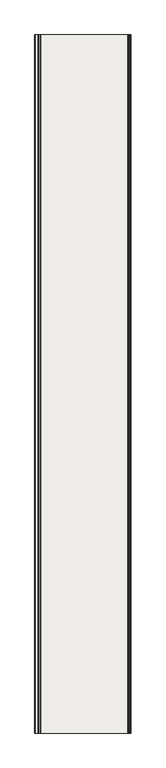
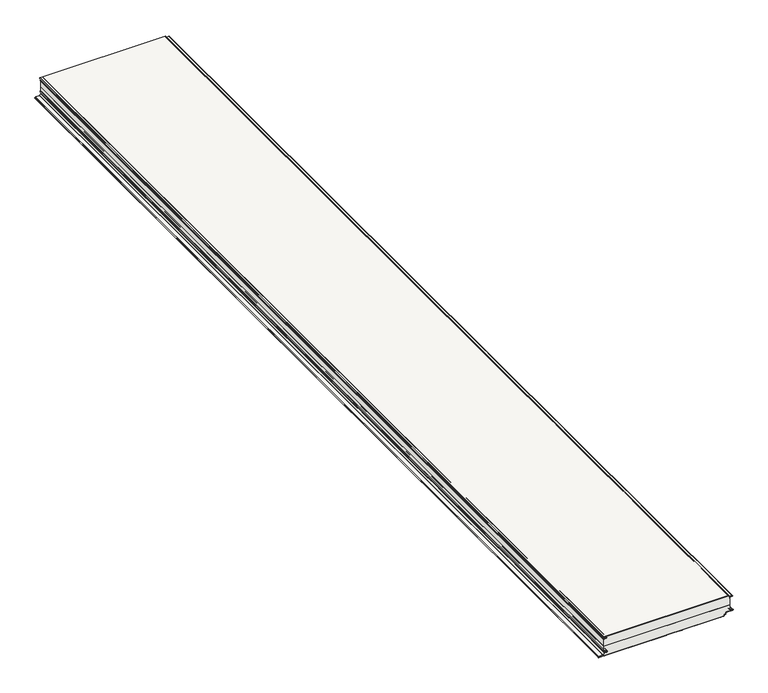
"""IFC4 building model written with IfcOpenShell, lengths in millimetres: covering geometry, Wall sandwich panel SPW-H CORE PIR (single sheet) : -."""

from ifc_helpers import new_model, si_unit, point, frame, frame_2d, origin, place, context, project, spatial, polyline, circle_curve, trimmed, segment, composite_curve, outline, extrude, source, transform, mapped, element, save
from ifc_brep_helpers import plane_surface, cylinder_surface, revolved_surface, advanced_brep


def covering_c520f398(model_context):
    return source(origin(), model_context, "Body", "SolidModel", [
        extrude(outline(composite_curve([segment(polyline([(-15.1088808, -783.0523342), (-14.5423642, -772.2421915)]), True, "CONTINUOUS"), segment(trimmed(circle_curve(frame_2d((-9.549216, -772.5038626)), 5.0), [point((-14.5423642, -772.2421915))], [point((-4.5522622, -772.3293564))], False, "CARTESIAN"), True, "CONTINUOUS"), segment(polyline([(-4.5522622, -772.3293564), (-4.0495702, -786.7238513)]), True, "CONTINUOUS"), segment(trimmed(circle_curve(frame_2d((-2.5266447, -786.6173526)), 1.5266447), [point((-4.0495702, -786.7238513))], [point((-1.0, -786.6173526))], True, "CARTESIAN"), True, "CONTINUOUS"), segment(polyline([(-1.0, -786.6173526), (-1.0, -785.0), (0.0, -785.0), (0.0, -786.6173526)]), True, "CONTINUOUS"), segment(trimmed(circle_curve(frame_2d((-2.5266447, -786.6173526)), 2.5266447), [point((0.0, -786.6173526))], [point((-5.0484281, -786.7740115))], False, "CARTESIAN"), True, "CONTINUOUS"), segment(polyline([(-5.0484281, -786.7740115), (-5.551653, -772.3642576)]), True, "CONTINUOUS"), segment(trimmed(circle_curve(frame_2d((-9.549216, -772.5038626)), 4.0), [point((-5.551653, -772.3642576))], [point((-13.5437346, -772.2945257))], True, "CARTESIAN"), True, "CONTINUOUS"), segment(polyline([(-13.5437346, -772.2945257), (-14.1102512, -783.1046684)]), True, "CONTINUOUS"), segment(trimmed(circle_curve(frame_2d((-16.1075105, -783.0)), 2.0), [point((-14.1102512, -783.1046684))], [point((-16.1075105, -785.0))], False, "CARTESIAN"), True, "CONTINUOUS"), segment(polyline([(-16.1075105, -785.0), (-18.1075105, -785.0), (-18.1075105, -784.0), (-16.1075105, -784.0)]), True, "CONTINUOUS"), segment(trimmed(circle_curve(frame_2d((-16.1075105, -783.0)), 1.0), [point((-16.1075105, -784.0))], [point((-15.1088808, -783.0523342))], True, "CARTESIAN"), True, "CONTINUOUS")], self_intersect=False)), frame((0.0, -5800.0, 0.0), z_axis=(0.0, 1.0, 0.0), x_axis=(0.0, 0.0, 1.0)), (0.0, 0.0, 1.0), 5800.0),
        advanced_brep(
        [(-780.5824878, -5800.0, -102.0150874), (-769.3324878, -5800.0, -101.9992045), (-769.0709825, -5800.0, -92.0060522), (-783.2742211, -5800.0, -91.2619406), (-784.0, -5800.0, -90.4971426), (-784.0, -5800.0, -81.4971426), (-785.0, -5800.0, -81.4971426), (-785.0, -5800.0, -90.4971426), (-783.3265396, -5800.0, -92.260571), (-769.123301, -5800.0, -93.0046827), (-769.3331636, -5800.0, -100.9992044), (-780.6396582, -5800.0, -101.0151671), (-782.7899391, -5800.0, -102.27871), (-788.1496634, -5800.0, -109.933474), (-790.1975249, -5800.0, -110.9995686), (-813.4143745, -5800.0, -110.9999738), (-813.414296, -5800.0, -120.0), (-785.0, -5800.0, -120.0), (-785.0, -5800.0, -119.0), (-813.414296, -5800.0, -119.0), (-813.4143571, -5800.0, -112.0), (-790.1975075, -5800.0, -111.9995686), (-787.3305014, -5800.0, -110.5070361), (-781.9707771, -5800.0, -102.8522722), (-780.5824878, 0.0, -102.0150874), (-781.9707771, 0.0, -102.8522722), (-787.3305014, 0.0, -110.5070361), (-790.1975075, 0.0, -111.9995686), (-813.4143571, 0.0, -111.9999738), (-813.414296, 0.0, -119.0), (-785.0, 0.0, -119.0), (-785.0, 0.0, -120.0), (-813.414296, 0.0, -120.0), (-813.4143745, 0.0, -111.0), (-790.1975249, 0.0, -110.9995686), (-788.1496634, 0.0, -109.933474), (-782.7899391, 0.0, -102.27871), (-780.6396582, 0.0, -101.0151671), (-769.3331636, 0.0, -100.9992044), (-769.123301, 0.0, -93.0046827), (-783.3265396, 0.0, -92.260571), (-785.0, 0.0, -90.4971426), (-785.0, 0.0, -81.4971426), (-784.0, 0.0, -81.4971426), (-784.0, 0.0, -90.4971426), (-783.2742211, 0.0, -91.2619406), (-769.0709825, 0.0, -92.0060522), (-769.3324878, 0.0, -101.9992045)],
        [
            (0, 1),
            (1, 2, circle_curve(frame((-769.3325751, -5800.0, -96.9992045), z_axis=(0.0, -1.0, 0.0), x_axis=(1.0, 0.0, 0.0)), 5.0)),
            (2, 3),
            (3, 4, circle_curve(frame((-783.2341531, -5800.0, -90.4971426), z_axis=(0.0, 1.0, 0.0), x_axis=(1.0, 0.0, 0.0)), 0.7658469)),
            (4, 5),
            (5, 6),
            (6, 7),
            (7, 8, circle_curve(frame((-783.2341531, -5800.0, -90.4971426), z_axis=(0.0, -1.0, 0.0), x_axis=(1.0, 0.0, 0.0)), 1.7658469)),
            (8, 9),
            (9, 10, circle_curve(frame((-769.3325751, -5800.0, -96.9992045), z_axis=(0.0, 1.0, 0.0), x_axis=(1.0, 0.0, 0.0)), 4.0)),
            (10, 11),
            (11, 12, circle_curve(frame((-780.3324529, -5800.0, -103.9993964), z_axis=(0.0, -1.0, 0.0), x_axis=(1.0, 0.0, 0.0)), 3.0)),
            (12, 13),
            (13, 14, circle_curve(frame((-790.1975686, -5800.0, -108.4995686), z_axis=(0.0, 1.0, 0.0), x_axis=(1.0, 0.0, 0.0)), 2.5)),
            (14, 15),
            (15, 16, circle_curve(frame((-813.414296, -5800.0, -115.5), z_axis=(0.0, -1.0, 0.0), x_axis=(1.0, 0.0, 0.0)), 4.5)),
            (16, 17),
            (17, 18),
            (18, 19),
            (19, 20, circle_curve(frame((-813.414296, -5800.0, -115.5), z_axis=(0.0, 1.0, 0.0), x_axis=(1.0, 0.0, 0.0)), 3.5)),
            (20, 21),
            (21, 22, circle_curve(frame((-790.1975686, -5800.0, -108.4995686), z_axis=(0.0, -1.0, 0.0), x_axis=(1.0, 0.0, 0.0)), 3.5)),
            (22, 23),
            (23, 0, circle_curve(frame((-780.3324529, -5800.0, -103.9993964), z_axis=(0.0, 1.0, 0.0), x_axis=(1.0, 0.0, 0.0)), 2.0)),
            (24, 25, circle_curve(frame((-780.3324529, 0.0, -103.9993964), z_axis=(0.0, -1.0, 0.0), x_axis=(1.0, 0.0, 0.0)), 2.0)),
            (25, 26),
            (26, 27, circle_curve(frame((-790.1975686, 0.0, -108.4995686), z_axis=(0.0, 1.0, 0.0), x_axis=(1.0, 0.0, 0.0)), 3.5)),
            (27, 28),
            (28, 29, circle_curve(frame((-813.414296, 0.0, -115.5), z_axis=(0.0, -1.0, 0.0), x_axis=(1.0, 0.0, 0.0)), 3.5)),
            (29, 30),
            (30, 31),
            (31, 32),
            (32, 33, circle_curve(frame((-813.414296, 0.0, -115.5), z_axis=(0.0, 1.0, 0.0), x_axis=(1.0, 0.0, 0.0)), 4.5)),
            (33, 34),
            (34, 35, circle_curve(frame((-790.1975686, 0.0, -108.4995686), z_axis=(0.0, -1.0, 0.0), x_axis=(1.0, 0.0, 0.0)), 2.5)),
            (35, 36),
            (36, 37, circle_curve(frame((-780.3324529, 0.0, -103.9993964), z_axis=(0.0, 1.0, 0.0), x_axis=(1.0, 0.0, 0.0)), 3.0)),
            (37, 38),
            (38, 39, circle_curve(frame((-769.3325751, 0.0, -96.9992045), z_axis=(0.0, -1.0, 0.0), x_axis=(1.0, 0.0, 0.0)), 4.0)),
            (39, 40),
            (40, 41, circle_curve(frame((-783.2341531, 0.0, -90.4971426), z_axis=(0.0, 1.0, 0.0), x_axis=(1.0, 0.0, 0.0)), 1.7658469)),
            (41, 42),
            (42, 43),
            (43, 44),
            (44, 45, circle_curve(frame((-783.2341531, 0.0, -90.4971426), z_axis=(0.0, -1.0, 0.0), x_axis=(1.0, 0.0, 0.0)), 0.7658469)),
            (45, 46),
            (46, 47, circle_curve(frame((-769.3325751, 0.0, -96.9992045), z_axis=(0.0, 1.0, 0.0), x_axis=(1.0, 0.0, 0.0)), 5.0)),
            (47, 24),
            (0, 24),
            (47, 1),
            (46, 2),
            (45, 3),
            (44, 4),
            (43, 5),
            (42, 6),
            (16, 32),
            (31, 17),
            (30, 18),
            (29, 19),
            (41, 7),
            (40, 8),
            (39, 9),
            (38, 10),
            (37, 11),
            (36, 12),
            (35, 13),
            (34, 14),
            (33, 15),
            (20, 28),
            (27, 21),
            (26, 22),
            (25, 23),
        ],
        [
            plane_surface(frame((-785.0, -5800.0, -120.0), z_axis=(0.0, -1.0, 0.0), x_axis=(0.0, 0.0, -1.0))),
            plane_surface(frame((-785.0, 0.0, -120.0), z_axis=(0.0, 1.0, 0.0), x_axis=(0.0, 0.0, -1.0))),
            plane_surface(frame((-780.5824878, -5800.0, -102.0150874), z_axis=(0.001411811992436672, 0.0, -0.9999990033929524), x_axis=(0.0, 1.0, 0.0))),
            cylinder_surface(frame((-769.3325751, -5800.0, -96.9992045), z_axis=(0.0, -1.0, 0.0), x_axis=(1.0, 0.0, 0.0)), 5.0),
            plane_surface(frame((-769.0709825, -5800.0, -92.0060522), z_axis=(0.05231852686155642, 0.0, 0.998630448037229), x_axis=(0.0, 1.0, 0.0))),
            revolved_surface(polyline([(-782.4683061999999, 0.0, -90.4971426), (-782.4683061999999, -5800.0, -90.4971426)]), (-783.2341531, -5800.0, -90.4971426), (0.0, 1.0, 0.0)),
            plane_surface(frame((-784.0, -5800.0, -90.4971426), z_axis=(1.0, 0.0, 0.0), x_axis=(0.0, 1.0, 0.0))),
            plane_surface(frame((-784.0, -5800.0, -81.4971426), z_axis=(0.0, 0.0, 1.0), x_axis=(0.0, 1.0, 0.0))),
            plane_surface(frame((-813.414296, -5800.0, -120.0), z_axis=(0.0, 0.0, -1.0), x_axis=(0.0, 1.0, 0.0))),
            plane_surface(frame((-785.0, -5800.0, -120.0), z_axis=(1.0, 0.0, 0.0), x_axis=(0.0, 1.0, 0.0))),
            plane_surface(frame((-785.0, -5800.0, -119.0), z_axis=(0.0, 0.0, 1.0), x_axis=(0.0, 1.0, 0.0))),
            plane_surface(frame((-785.0, -5800.0, -81.4971426), z_axis=(-1.0, 0.0, 0.0), x_axis=(0.0, 1.0, 0.0))),
            cylinder_surface(frame((-783.2341531, -5800.0, -90.4971426), z_axis=(0.0, -1.0, 0.0), x_axis=(1.0, 0.0, 0.0)), 1.7658469),
            plane_surface(frame((-783.3265396, -5800.0, -92.260571), z_axis=(-0.05231852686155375, 0.0, -0.9986304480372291), x_axis=(0.0, 1.0, 0.0))),
            revolved_surface(polyline([(-765.3325751, 0.0, -96.9992045), (-765.3325751, -5800.0, -96.9992045)]), (-769.3325751, -5800.0, -96.9992045), (0.0, 1.0, 0.0)),
            plane_surface(frame((-769.3331636, -5800.0, -100.9992044), z_axis=(-0.0014118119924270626, 0.0, 0.9999990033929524), x_axis=(0.0, 1.0, 0.0))),
            cylinder_surface(frame((-780.3324529, -5800.0, -103.9993964), z_axis=(0.0, -1.0, 0.0), x_axis=(1.0, 0.0, 0.0)), 3.0),
            plane_surface(frame((-782.7899391, -5800.0, -102.27871), z_axis=(-0.8191620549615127, 0.0, 0.573562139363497), x_axis=(0.0, 1.0, 0.0))),
            revolved_surface(polyline([(-787.6975686, 0.0, -108.4995686), (-787.6975686, -5800.0, -108.4995686)]), (-790.1975686, -5800.0, -108.4995686), (0.0, 1.0, 0.0)),
            plane_surface(frame((-790.1975249, -5800.0, -110.9995686), z_axis=(-1.745329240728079e-05, 0.0, 0.9999999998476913), x_axis=(0.0, 1.0, 0.0))),
            plane_surface(frame((-813.4143571, -5800.0, -111.9999738), z_axis=(1.7453292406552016e-05, 0.0, -0.9999999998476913), x_axis=(0.0, 1.0, 0.0))),
            cylinder_surface(frame((-790.1975686, -5800.0, -108.4995686), z_axis=(0.0, -1.0, 0.0), x_axis=(1.0, 0.0, 0.0)), 3.5),
            plane_surface(frame((-787.3305014, -5800.0, -110.5070361), z_axis=(0.8191620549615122, 0.0, -0.5735621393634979), x_axis=(0.0, 1.0, 0.0))),
            revolved_surface(polyline([(-778.3324529, 0.0, -103.9993964), (-778.3324529, -5800.0, -103.9993964)]), (-780.3324529, -5800.0, -103.9993964), (0.0, 1.0, 0.0)),
            cylinder_surface(frame((-813.414296, -5800.0, -115.5), z_axis=(0.0, -1.0, 0.0), x_axis=(1.0, 0.0, 0.0)), 4.5),
            revolved_surface(polyline([(-809.914296, 0.0, -115.5), (-809.914296, -5800.0, -115.5)]), (-813.414296, -5800.0, -115.5), (0.0, 1.0, 0.0)),
        ],
        [
            (0, [[1, 2, 3, 4, 5, 6, 7, 8, 9, 10, 11, 12, 13, 14, 15, 16, 17, 18, 19, 20, 21, 22, 23, 24]]),
            (1, [[25, 26, 27, 28, 29, 30, 31, 32, 33, 34, 35, 36, 37, 38, 39, 40, 41, 42, 43, 44, 45, 46, 47, 48]]),
            (2, [[-1, 49, -48, 50]]),
            (3, [[-2, -50, -47, 51]]),
            (4, [[-3, -51, -46, 52]]),
            (5, [[-4, -52, -45, 53]]),
            (6, [[-5, -53, -44, 54]]),
            (7, [[-6, -54, -43, 55]]),
            (8, [[-17, 56, -32, 57]]),
            (9, [[-18, -57, -31, 58]]),
            (10, [[-19, -58, -30, 59]]),
            (11, [[-7, -55, -42, 60]]),
            (12, [[-8, -60, -41, 61]]),
            (13, [[-9, -61, -40, 62]]),
            (14, [[-10, -62, -39, 63]]),
            (15, [[-11, -63, -38, 64]]),
            (16, [[-12, -64, -37, 65]]),
            (17, [[-13, -65, -36, 66]]),
            (18, [[-14, -66, -35, 67]]),
            (19, [[-15, -67, -34, 68]]),
            (20, [[-21, 69, -28, 70]]),
            (21, [[-22, -70, -27, 71]]),
            (22, [[-23, -71, -26, 72]]),
            (23, [[-24, -72, -25, -49]]),
            (24, [[-16, -68, -33, -56]]),
            (25, [[-20, -59, -29, -69]]),
        ],
    ),
        extrude(outline(composite_curve([segment(polyline([(-120.0, -775.4098003), (-119.6, -774.0275239), (-119.6, -729.8098003), (-120.0, -728.4275239), (-120.0, -684.2098003), (-119.6, -682.8275239), (-119.6, -638.6098003), (-120.0, -637.2275239), (-120.0, -593.0098003), (-119.6, -591.6275239), (-119.6, -547.4098003), (-120.0, -546.0275239), (-120.0, -501.8098003), (-119.6, -500.4275239), (-119.6, -456.2098003), (-120.0, -454.8275239), (-120.0, -410.6098003), (-119.6, -409.2275239), (-119.6, -365.0098003), (-120.0, -363.6275239), (-120.0, -319.4098003), (-119.6, -318.0275239), (-119.6, -273.8098003), (-120.0, -272.4275239), (-120.0, -228.2098003), (-119.6, -226.8275239), (-119.6, -182.6098003), (-120.0, -181.2275239), (-120.0, -137.0098003), (-119.6, -135.6275239), (-119.6, -91.4098003), (-120.0, -90.0275239), (-120.0, -73.4477183)]), True, "CONTINUOUS"), segment(trimmed(circle_curve(frame_2d((-115.0, -73.4477183)), 5.0), [point((-120.0, -73.4477183))], [point((-115.0, -68.4477183))], False, "CARTESIAN"), True, "CONTINUOUS"), segment(polyline([(-115.0, -68.4477183), (-112.008232, -68.4477183)]), True, "CONTINUOUS"), segment(trimmed(circle_curve(frame_2d((-112.008232, -66.4315256)), 2.0161927), [point((-112.008232, -68.4477183))], [point((-109.9920393, -66.4315256))], True, "CARTESIAN"), True, "CONTINUOUS"), segment(polyline([(-109.9920393, -66.4315256), (-109.9920393, -60.9141788)]), True, "CONTINUOUS"), segment(trimmed(circle_curve(frame_2d((-107.4959919, -60.9141788)), 2.4960474), [point((-109.9920393, -60.9141788))], [point((-107.9326372, -58.4566204))], False, "CARTESIAN"), True, "CONTINUOUS"), segment(polyline([(-107.9326372, -58.4566204), (-101.6533464, -57.3460478)]), True, "CONTINUOUS"), segment(trimmed(circle_curve(frame_2d((-102.0004127, -55.3763918)), 2.0), [point((-101.6533464, -57.3460478))], [point((-100.0004127, -55.3763918))], True, "CARTESIAN"), True, "CONTINUOUS"), segment(polyline([(-100.0004127, -55.3763918), (-100.0004127, -18.8763918)]), True, "CONTINUOUS"), segment(trimmed(circle_curve(frame_2d((-97.0004127, -18.8763918)), 3.0), [point((-100.0004127, -18.8763918))], [point((-94.0045241, -18.7193839))], False, "CARTESIAN"), True, "CONTINUOUS"), segment(polyline([(-94.0045241, -18.7193839), (-93.2754556, -32.6308399)]), True, "CONTINUOUS"), segment(trimmed(circle_curve(frame_2d((-90.7788817, -32.5)), 2.5), [point((-93.2754556, -32.6308399))], [point((-90.7788817, -35.0))], True, "CARTESIAN"), True, "CONTINUOUS"), segment(polyline([(-90.7788817, -35.0), (-81.4988817, -35.0), (-81.4988817, -36.0), (-90.7788817, -36.0)]), True, "CONTINUOUS"), segment(trimmed(circle_curve(frame_2d((-90.7788817, -32.5)), 3.5), [point((-90.7788817, -36.0))], [point((-94.2740851, -32.6831758))], False, "CARTESIAN"), True, "CONTINUOUS"), segment(polyline([(-94.2740851, -32.6831758), (-95.0031536, -18.7717199)]), True, "CONTINUOUS"), segment(trimmed(circle_curve(frame_2d((-97.0004127, -18.8763918)), 2.0), [point((-95.0031536, -18.7717199))], [point((-99.0004127, -18.8763918))], True, "CARTESIAN"), True, "CONTINUOUS"), segment(polyline([(-99.0004127, -18.8763918), (-99.0004127, -55.3763918)]), True, "CONTINUOUS"), segment(trimmed(circle_curve(frame_2d((-102.0004127, -55.3763918)), 3.0), [point((-99.0004127, -55.3763918))], [point((-101.4794682, -58.330815))], False, "CARTESIAN"), True, "CONTINUOUS"), segment(polyline([(-101.4794682, -58.330815), (-107.7580406, -59.4412605)]), True, "CONTINUOUS"), segment(trimmed(circle_curve(frame_2d((-107.4959919, -60.9141788)), 1.4960474), [point((-107.7580406, -59.4412605))], [point((-108.9920393, -60.9141788))], True, "CARTESIAN"), True, "CONTINUOUS"), segment(polyline([(-108.9920393, -60.9141788), (-108.9920393, -66.4315256)]), True, "CONTINUOUS"), segment(trimmed(circle_curve(frame_2d((-112.008232, -66.4315256)), 3.0161927), [point((-108.9920393, -66.4315256))], [point((-112.008232, -69.4477183))], False, "CARTESIAN"), True, "CONTINUOUS"), segment(polyline([(-112.008232, -69.4477183), (-115.0, -69.4477183)]), True, "CONTINUOUS"), segment(trimmed(circle_curve(frame_2d((-115.0, -73.4477183)), 4.0), [point((-115.0, -69.4477183))], [point((-119.0, -73.4477183))], True, "CARTESIAN"), True, "CONTINUOUS"), segment(polyline([(-119.0, -73.4477183), (-119.0, -785.0), (-120.0, -785.0), (-120.0, -775.4098003)]), True, "CONTINUOUS")], self_intersect=False)), frame((0.0, -5800.0, 0.0), z_axis=(0.0, 1.0, 0.0), x_axis=(0.0, 0.0, 1.0)), (0.0, 0.0, 1.0), 5800.0),
        extrude(outline(composite_curve([segment(polyline([(-1.0, -785.0), (-1.0, -42.1186621)]), True, "CONTINUOUS"), segment(trimmed(circle_curve(frame_2d((-2.5, -42.1186621)), 1.5), [point((-1.0, -42.1186621))], [point((-2.5, -40.6186621))], True, "CARTESIAN"), True, "CONTINUOUS"), segment(polyline([(-2.5, -40.6186621), (-4.3, -40.6186621)]), True, "CONTINUOUS"), segment(trimmed(circle_curve(frame_2d((-4.3, -38.1186621)), 2.5), [point((-4.3, -40.6186621))], [point((-6.7984771, -38.2059108))], False, "CARTESIAN"), True, "CONTINUOUS"), segment(polyline([(-6.7984771, -38.2059108), (-7.363951, -22.012857)]), True, "CONTINUOUS"), segment(trimmed(circle_curve(frame_2d((-9.3627326, -22.082656)), 2.0), [point((-7.363951, -22.012857))], [point((-11.3599917, -21.9779841))], True, "CARTESIAN"), True, "CONTINUOUS"), segment(polyline([(-11.3599917, -21.9779841), (-11.921027, -32.6831758)]), True, "CONTINUOUS"), segment(trimmed(circle_curve(frame_2d((-15.4162304, -32.5)), 3.5), [point((-11.921027, -32.6831758))], [point((-15.4162304, -36.0))], False, "CARTESIAN"), True, "CONTINUOUS"), segment(polyline([(-15.4162304, -36.0), (-18.1062304, -36.0), (-18.1062304, -35.0), (-15.4162304, -35.0)]), True, "CONTINUOUS"), segment(trimmed(circle_curve(frame_2d((-15.4162304, -32.5)), 2.5), [point((-15.4162304, -35.0))], [point((-12.9196566, -32.6308399))], True, "CARTESIAN"), True, "CONTINUOUS"), segment(polyline([(-12.9196566, -32.6308399), (-12.3586212, -21.9256482)]), True, "CONTINUOUS"), segment(trimmed(circle_curve(frame_2d((-9.3627326, -22.082656)), 3.0), [point((-12.3586212, -21.9256482))], [point((-6.3645601, -21.9779575))], False, "CARTESIAN"), True, "CONTINUOUS"), segment(polyline([(-6.3645601, -21.9779575), (-5.7990862, -38.1710114)]), True, "CONTINUOUS"), segment(trimmed(circle_curve(frame_2d((-4.3, -38.1186621)), 1.5), [point((-5.7990862, -38.1710114))], [point((-4.3, -39.6186621))], True, "CARTESIAN"), True, "CONTINUOUS"), segment(polyline([(-4.3, -39.6186621), (-2.5, -39.6186621)]), True, "CONTINUOUS"), segment(trimmed(circle_curve(frame_2d((-2.5, -42.1186621)), 2.5), [point((-2.5, -39.6186621))], [point((0.0, -42.1186621))], False, "CARTESIAN"), True, "CONTINUOUS"), segment(polyline([(0.0, -42.1186621), (0.0, -785.0), (-1.0, -785.0)]), True, "CONTINUOUS")], self_intersect=False)), frame((0.0, -5800.0, 0.0), z_axis=(0.0, 1.0, 0.0), x_axis=(0.0, 0.0, 1.0)), (0.0, 0.0, 1.0), 5800.0),
        advanced_brep(
        [(-813.414296, -5800.0, -119.0), (-785.0, -5800.0, -119.0), (-73.4477183, -5800.0, -119.0), (-69.4477183, -5800.0, -115.0), (-69.4477183, -5800.0, -112.0078193), (-66.4315256, -5800.0, -108.9916266), (-60.9141788, -5800.0, -108.9916266), (-59.4412605, -5800.0, -107.7576279), (-58.330815, -5800.0, -101.4790555), (-55.3763918, -5800.0, -99.0), (-18.8763918, -5800.0, -99.0), (-18.7717199, -5800.0, -95.0027409), (-32.6831758, -5800.0, -94.2736724), (-36.0, -5800.0, -90.778469), (-36.0, -5800.0, -60.0), (-784.0, -5800.0, -60.0), (-784.0, -5800.0, -90.4971426), (-783.2742211, -5800.0, -91.2619406), (-769.0709825, -5800.0, -92.0060522), (-769.3324878, -5800.0, -101.9992045), (-780.3324878, -5800.0, -101.9993964), (-781.9707771, -5800.0, -102.8522722), (-787.3305014, -5800.0, -110.5070361), (-790.1975075, -5800.0, -111.9995686), (-813.4143571, -5800.0, -111.9999738), (-785.0, 0.0, -119.0), (-813.414296, 0.0, -119.0), (-813.4143571, 0.0, -112.0), (-790.1975075, 0.0, -111.9995686), (-787.3305014, 0.0, -110.5070361), (-781.9707771, 0.0, -102.8522722), (-780.3324878, 0.0, -101.9993964), (-769.3324878, 0.0, -101.9992045), (-769.0709825, 0.0, -92.0060522), (-783.2742211, 0.0, -91.2619406), (-784.0, 0.0, -90.4971426), (-784.0, 0.0, -60.0), (-36.0, 0.0, -60.0), (-36.0, 0.0, -90.778469), (-32.6831758, 0.0, -94.2736724), (-18.7717199, 0.0, -95.0027409), (-18.8763918, 0.0, -99.0), (-55.3763918, 0.0, -99.0), (-58.330815, 0.0, -101.4790555), (-59.4412605, 0.0, -107.7576279), (-60.9141788, 0.0, -108.9916266), (-66.4315256, 0.0, -108.9916266), (-69.4477183, 0.0, -112.0078193), (-69.4477183, 0.0, -115.0), (-73.4477183, 0.0, -119.0)],
        [
            (0, 1),
            (1, 2),
            (2, 3, circle_curve(frame((-73.4477183, -5800.0, -115.0), z_axis=(0.0, -1.0, 0.0), x_axis=(-1.0, 0.0, 0.0)), 4.0)),
            (3, 4),
            (4, 5, circle_curve(frame((-66.4315256, -5800.0, -112.0078193), z_axis=(0.0, 1.0, 0.0), x_axis=(-1.0, 0.0, 0.0)), 3.0161927)),
            (5, 6),
            (6, 7, circle_curve(frame((-60.9141788, -5800.0, -107.4955792), z_axis=(0.0, -1.0, 0.0), x_axis=(-1.0, 0.0, 0.0)), 1.4960474)),
            (7, 8),
            (8, 9, circle_curve(frame((-55.3763918, -5800.0, -102.0), z_axis=(0.0, 1.0, 0.0), x_axis=(-1.0, 0.0, 0.0)), 3.0)),
            (9, 10),
            (10, 11, circle_curve(frame((-18.8763918, -5800.0, -97.0), z_axis=(0.0, -1.0, 0.0), x_axis=(-1.0, 0.0, 0.0)), 2.0)),
            (11, 12),
            (12, 13, circle_curve(frame((-32.5, -5800.0, -90.778469), z_axis=(0.0, 1.0, 0.0), x_axis=(-1.0, 0.0, 0.0)), 3.5)),
            (13, 14),
            (14, 15),
            (15, 16),
            (16, 17, circle_curve(frame((-783.2341531, -5800.0, -90.4971426), z_axis=(0.0, -1.0, 0.0), x_axis=(-1.0, 0.0, 0.0)), 0.7658469)),
            (17, 18),
            (18, 19, circle_curve(frame((-769.3325751, -5800.0, -96.9992045), z_axis=(0.0, 1.0, 0.0), x_axis=(-1.0, 0.0, 0.0)), 5.0)),
            (19, 20),
            (20, 21, circle_curve(frame((-780.3324529, -5800.0, -103.9993964), z_axis=(0.0, -1.0, 0.0), x_axis=(-1.0, 0.0, 0.0)), 2.0)),
            (21, 22),
            (22, 23, circle_curve(frame((-790.1975686, -5800.0, -108.4995686), z_axis=(0.0, 1.0, 0.0), x_axis=(-1.0, 0.0, 0.0)), 3.5)),
            (23, 24),
            (24, 0, circle_curve(frame((-813.414296, -5800.0, -115.5), z_axis=(0.0, -1.0, 0.0), x_axis=(-1.0, 0.0, 0.0)), 3.5)),
            (25, 26),
            (26, 27, circle_curve(frame((-813.414296, 0.0, -115.5), z_axis=(0.0, 1.0, 0.0), x_axis=(-1.0, 0.0, 0.0)), 3.5)),
            (27, 28),
            (28, 29, circle_curve(frame((-790.1975686, 0.0, -108.4995686), z_axis=(0.0, -1.0, 0.0), x_axis=(-1.0, 0.0, 0.0)), 3.5)),
            (29, 30),
            (30, 31, circle_curve(frame((-780.3324529, 0.0, -103.9993964), z_axis=(0.0, 1.0, 0.0), x_axis=(-1.0, 0.0, 0.0)), 2.0)),
            (31, 32),
            (32, 33, circle_curve(frame((-769.3325751, 0.0, -96.9992045), z_axis=(0.0, -1.0, 0.0), x_axis=(-1.0, 0.0, 0.0)), 5.0)),
            (33, 34),
            (34, 35, circle_curve(frame((-783.2341531, 0.0, -90.4971426), z_axis=(0.0, 1.0, 0.0), x_axis=(-1.0, 0.0, 0.0)), 0.7658469)),
            (35, 36),
            (36, 37),
            (37, 38),
            (38, 39, circle_curve(frame((-32.5, 0.0, -90.778469), z_axis=(0.0, -1.0, 0.0), x_axis=(-1.0, 0.0, 0.0)), 3.5)),
            (39, 40),
            (40, 41, circle_curve(frame((-18.8763918, 0.0, -97.0), z_axis=(0.0, 1.0, 0.0), x_axis=(-1.0, 0.0, 0.0)), 2.0)),
            (41, 42),
            (42, 43, circle_curve(frame((-55.3763918, 0.0, -102.0), z_axis=(0.0, -1.0, 0.0), x_axis=(-1.0, 0.0, 0.0)), 3.0)),
            (43, 44),
            (44, 45, circle_curve(frame((-60.9141788, 0.0, -107.4955792), z_axis=(0.0, 1.0, 0.0), x_axis=(-1.0, 0.0, 0.0)), 1.4960474)),
            (45, 46),
            (46, 47, circle_curve(frame((-66.4315256, 0.0, -112.0078193), z_axis=(0.0, -1.0, 0.0), x_axis=(-1.0, 0.0, 0.0)), 3.0161927)),
            (47, 48),
            (48, 49, circle_curve(frame((-73.4477183, 0.0, -115.0), z_axis=(0.0, 1.0, 0.0), x_axis=(-1.0, 0.0, 0.0)), 4.0)),
            (49, 25),
            (36, 15),
            (14, 37),
            (0, 26),
            (49, 2),
            (23, 28),
            (27, 24),
            (22, 29),
            (21, 30),
            (20, 31),
            (19, 32),
            (18, 33),
            (17, 34),
            (16, 35),
            (13, 38),
            (12, 39),
            (11, 40),
            (10, 41),
            (9, 42),
            (8, 43),
            (7, 44),
            (6, 45),
            (5, 46),
            (4, 47),
            (3, 48),
        ],
        [
            plane_surface(frame((-845.0, -5800.0, -60.0), z_axis=(0.0, -1.0, 0.0), x_axis=(-1.0, 0.0, 0.0))),
            plane_surface(frame((-845.0, 0.0, -60.0), z_axis=(0.0, 1.0, 0.0), x_axis=(1.0, 0.0, 0.0))),
            plane_surface(frame((15.0, -5800.0, -60.0), z_axis=(0.0, 0.0, 1.0), x_axis=(0.0, 1.0, 0.0))),
            plane_surface(frame((-845.0, -5800.0, -119.0), z_axis=(0.0, 0.0, -1.0), x_axis=(0.0, 1.0, 0.0))),
            plane_surface(frame((-813.4143571, -5800.0, -111.9999738), z_axis=(-1.7453294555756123e-05, 0.0, 0.9999999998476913), x_axis=(0.0, 1.0, 0.0))),
            revolved_surface(polyline([(-793.6975686, -5800.0, -108.4995686), (-793.6975686, 0.0, -108.4995686)]), (-790.1975686, -5800.0, -108.4995686), (0.0, -1.0, 0.0)),
            plane_surface(frame((-787.3305014, -5800.0, -110.5070361), z_axis=(-0.8191620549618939, 0.0, 0.5735621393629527), x_axis=(0.0, 1.0, 0.0))),
            cylinder_surface(frame((-780.3324529, -5800.0, -103.9993964), z_axis=(0.0, 1.0, 0.0), x_axis=(-1.0, 0.0, 0.0)), 2.0),
            plane_surface(frame((-780.3324878, -5800.0, -101.9993964), z_axis=(-1.7453292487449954e-05, 0.0, 0.9999999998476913), x_axis=(0.0, 1.0, 0.0))),
            revolved_surface(polyline([(-774.3325751, -5800.0, -96.9992045), (-774.3325751, 0.0, -96.9992045)]), (-769.3325751, -5800.0, -96.9992045), (0.0, -1.0, 0.0)),
            plane_surface(frame((-769.0709825, -5800.0, -92.0060522), z_axis=(-0.05231852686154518, 0.0, -0.9986304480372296), x_axis=(0.0, 1.0, 0.0))),
            cylinder_surface(frame((-783.2341531, -5800.0, -90.4971426), z_axis=(0.0, 1.0, 0.0), x_axis=(-1.0, 0.0, 0.0)), 0.7658469),
            plane_surface(frame((-784.0, -5800.0, -90.4971426), z_axis=(-1.0, 0.0, 0.0), x_axis=(0.0, 1.0, 0.0))),
            plane_surface(frame((-36.0, -5800.0, -15.4162304), z_axis=(1.0, 0.0, 0.0), x_axis=(0.0, 1.0, 0.0))),
            revolved_surface(polyline([(-36.0, -5800.0, -90.778469), (-36.0, 0.0, -90.778469)]), (-32.5, -5800.0, -90.778469), (0.0, -1.0, 0.0)),
            plane_surface(frame((-32.6831758, -5800.0, -94.2736724), z_axis=(0.05233595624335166, 0.0, 0.9986295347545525), x_axis=(0.0, 1.0, 0.0))),
            cylinder_surface(frame((-18.8763918, -5800.0, -97.0), z_axis=(0.0, 1.0, 0.0), x_axis=(-1.0, 0.0, 0.0)), 2.0),
            plane_surface(frame((-18.8763918, -5800.0, -99.0), z_axis=(0.0, 0.0, -1.0), x_axis=(0.0, 1.0, 0.0))),
            revolved_surface(polyline([(-58.3763918, -5800.0, -102.0), (-58.3763918, 0.0, -102.0)]), (-55.3763918, -5800.0, -102.0), (0.0, -1.0, 0.0)),
            plane_surface(frame((-58.330815, -5800.0, -101.4790555), z_axis=(0.9847174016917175, 0.0, -0.17415980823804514), x_axis=(0.0, 1.0, 0.0))),
            cylinder_surface(frame((-60.9141788, -5800.0, -107.4955792), z_axis=(0.0, 1.0, 0.0), x_axis=(-1.0, 0.0, 0.0)), 1.4960474),
            plane_surface(frame((-60.9141788, -5800.0, -108.9916266), z_axis=(0.0, 0.0, -1.0), x_axis=(0.0, 1.0, 0.0))),
            revolved_surface(polyline([(-69.4477183, -5800.0, -112.0078193), (-69.4477183, 0.0, -112.0078193)]), (-66.4315256, -5800.0, -112.0078193), (0.0, -1.0, 0.0)),
            plane_surface(frame((-69.4477183, -5800.0, -112.0078193), z_axis=(1.0, 0.0, 0.0), x_axis=(0.0, 1.0, 0.0))),
            cylinder_surface(frame((-73.4477183, -5800.0, -115.0), z_axis=(0.0, 1.0, 0.0), x_axis=(-1.0, 0.0, 0.0)), 4.0),
            cylinder_surface(frame((-813.414296, -5800.0, -115.5), z_axis=(0.0, 1.0, 0.0), x_axis=(-1.0, 0.0, 0.0)), 3.5),
        ],
        [
            (0, [[1, 2, 3, 4, 5, 6, 7, 8, 9, 10, 11, 12, 13, 14, 15, 16, 17, 18, 19, 20, 21, 22, 23, 24, 25]]),
            (1, [[26, 27, 28, 29, 30, 31, 32, 33, 34, 35, 36, 37, 38, 39, 40, 41, 42, 43, 44, 45, 46, 47, 48, 49, 50]]),
            (2, [[51, -15, 52, -37]]),
            (3, [[-1, 53, -26, -50, 54, -2]]),
            (4, [[55, -28, 56, -24]]),
            (5, [[-55, -23, 57, -29]]),
            (6, [[-57, -22, 58, -30]]),
            (7, [[-58, -21, 59, -31]]),
            (8, [[-59, -20, 60, -32]]),
            (9, [[-60, -19, 61, -33]]),
            (10, [[-61, -18, 62, -34]]),
            (11, [[-62, -17, 63, -35]]),
            (12, [[-63, -16, -51, -36]]),
            (13, [[64, -38, -52, -14]]),
            (14, [[-64, -13, 65, -39]]),
            (15, [[-65, -12, 66, -40]]),
            (16, [[-66, -11, 67, -41]]),
            (17, [[-67, -10, 68, -42]]),
            (18, [[-68, -9, 69, -43]]),
            (19, [[-69, -8, 70, -44]]),
            (20, [[-70, -7, 71, -45]]),
            (21, [[-71, -6, 72, -46]]),
            (22, [[-72, -5, 73, -47]]),
            (23, [[-73, -4, 74, -48]]),
            (24, [[-74, -3, -54, -49]]),
            (25, [[-56, -27, -53, -25]]),
        ],
    ),
        advanced_brep(
        [(-785.0, -5800.0, -1.0), (-786.6173526, -5800.0, -1.0), (-786.7238513, -5800.0, -4.0495702), (-772.3293564, -5800.0, -4.5522622), (-772.2421915, -5800.0, -14.5423642), (-783.0523342, -5800.0, -15.1088808), (-784.0, -5800.0, -16.1075105), (-784.0, -5800.0, -60.0), (-36.0, -5800.0, -60.0), (-36.0, -5800.0, -15.4162304), (-32.6831758, -5800.0, -11.921027), (-21.9779841, -5800.0, -11.3599917), (-22.012857, -5800.0, -7.363951), (-38.2059108, -5800.0, -6.7984771), (-40.6186621, -5800.0, -4.3), (-40.6186621, -5800.0, -2.5), (-42.1186621, -5800.0, -1.0), (-43.1368714, -5800.0, -1.0), (-786.6173526, 0.0, -1.0), (-785.0, 0.0, -1.0), (-43.1368714, 0.0, -1.0), (-42.1186621, 0.0, -1.0), (-40.6186621, 0.0, -2.5), (-40.6186621, 0.0, -4.3), (-38.2059108, 0.0, -6.7984771), (-22.012857, 0.0, -7.363951), (-21.9779841, 0.0, -11.3599917), (-32.6831758, 0.0, -11.921027), (-36.0, 0.0, -15.4162304), (-36.0, 0.0, -60.0), (-784.0, 0.0, -60.0), (-784.0, 0.0, -16.1075105), (-783.0523342, 0.0, -15.1088808), (-772.2421915, 0.0, -14.5423642), (-772.3293564, 0.0, -4.5522622), (-786.7238513, 0.0, -4.0495702)],
        [
            (0, 1),
            (1, 2, circle_curve(frame((-786.6173526, -5800.0, -2.5266447), z_axis=(0.0, -1.0, 0.0), x_axis=(-1.0, 0.0, 0.0)), 1.5266447)),
            (2, 3),
            (3, 4, circle_curve(frame((-772.5038626, -5800.0, -9.549216), z_axis=(0.0, 1.0, 0.0), x_axis=(-1.0, 0.0, 0.0)), 5.0)),
            (4, 5),
            (5, 6, circle_curve(frame((-783.0, -5800.0, -16.1075105), z_axis=(0.0, -1.0, 0.0), x_axis=(-1.0, 0.0, 0.0)), 1.0)),
            (6, 7),
            (7, 8),
            (8, 9),
            (9, 10, circle_curve(frame((-32.5, -5800.0, -15.4162304), z_axis=(0.0, 1.0, 0.0), x_axis=(-1.0, 0.0, 0.0)), 3.5)),
            (10, 11),
            (11, 12, circle_curve(frame((-22.082656, -5800.0, -9.3627326), z_axis=(0.0, -1.0, 0.0), x_axis=(-1.0, 0.0, 0.0)), 2.0)),
            (12, 13),
            (13, 14, circle_curve(frame((-38.1186621, -5800.0, -4.3), z_axis=(0.0, 1.0, 0.0), x_axis=(-1.0, 0.0, 0.0)), 2.5)),
            (14, 15),
            (15, 16, circle_curve(frame((-42.1186621, -5800.0, -2.5), z_axis=(0.0, -1.0, 0.0), x_axis=(-1.0, 0.0, 0.0)), 1.5)),
            (16, 17),
            (17, 0),
            (18, 19),
            (19, 20),
            (20, 21),
            (21, 22, circle_curve(frame((-42.1186621, 0.0, -2.5), z_axis=(0.0, 1.0, 0.0), x_axis=(-1.0, 0.0, 0.0)), 1.5)),
            (22, 23),
            (23, 24, circle_curve(frame((-38.1186621, 0.0, -4.3), z_axis=(0.0, -1.0, 0.0), x_axis=(-1.0, 0.0, 0.0)), 2.5)),
            (24, 25),
            (25, 26, circle_curve(frame((-22.082656, 0.0, -9.3627326), z_axis=(0.0, 1.0, 0.0), x_axis=(-1.0, 0.0, 0.0)), 2.0)),
            (26, 27),
            (27, 28, circle_curve(frame((-32.5, 0.0, -15.4162304), z_axis=(0.0, -1.0, 0.0), x_axis=(-1.0, 0.0, 0.0)), 3.5)),
            (28, 29),
            (29, 30),
            (30, 31),
            (31, 32, circle_curve(frame((-783.0, 0.0, -16.1075105), z_axis=(0.0, 1.0, 0.0), x_axis=(-1.0, 0.0, 0.0)), 1.0)),
            (32, 33),
            (33, 34, circle_curve(frame((-772.5038626, 0.0, -9.549216), z_axis=(0.0, -1.0, 0.0), x_axis=(-1.0, 0.0, 0.0)), 5.0)),
            (34, 35),
            (35, 18, circle_curve(frame((-786.6173526, 0.0, -2.5266447), z_axis=(0.0, 1.0, 0.0), x_axis=(-1.0, 0.0, 0.0)), 1.5266447)),
            (16, 21),
            (18, 1),
            (7, 30),
            (29, 8),
            (6, 31),
            (5, 32),
            (4, 33),
            (3, 34),
            (2, 35),
            (15, 22),
            (14, 23),
            (13, 24),
            (12, 25),
            (11, 26),
            (10, 27),
            (9, 28),
        ],
        [
            plane_surface(frame((-845.0, -5800.0, -1.0), z_axis=(0.0, -1.0, 0.0), x_axis=(-1.0, 0.0, 0.0))),
            plane_surface(frame((-845.0, 0.0, -1.0), z_axis=(0.0, 1.0, 0.0), x_axis=(1.0, 0.0, 0.0))),
            plane_surface(frame((-5.0, -5800.0, -1.0), z_axis=(0.0, 0.0, 1.0), x_axis=(0.0, 1.0, 0.0))),
            plane_surface(frame((-845.0, -5800.0, -60.0), z_axis=(0.0, 0.0, -1.0), x_axis=(0.0, 1.0, 0.0))),
            plane_surface(frame((-784.0, -5800.0, -90.4971426), z_axis=(-1.0, 0.0, 0.0), x_axis=(0.0, 1.0, 0.0))),
            cylinder_surface(frame((-783.0, -5800.0, -16.1075105), z_axis=(0.0, 1.0, 0.0), x_axis=(-1.0, 0.0, 0.0)), 1.0),
            plane_surface(frame((-783.0523342, -5800.0, -15.1088808), z_axis=(-0.052334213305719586, 0.0, 0.9986296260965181), x_axis=(0.0, 1.0, 0.0))),
            revolved_surface(polyline([(-777.5038626, -5800.0, -9.549216), (-777.5038626, 0.0, -9.549216)]), (-772.5038626, -5800.0, -9.549216), (0.0, -1.0, 0.0)),
            plane_surface(frame((-772.3293564, -5800.0, -4.5522622), z_axis=(-0.03490124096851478, 0.0, -0.9993907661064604), x_axis=(0.0, 1.0, 0.0))),
            cylinder_surface(frame((-42.1186621, -5800.0, -2.5), z_axis=(0.0, 1.0, 0.0), x_axis=(-1.0, 0.0, 0.0)), 1.5),
            plane_surface(frame((-40.6186621, -5800.0, -2.5), z_axis=(1.0, 0.0, 0.0), x_axis=(0.0, 1.0, 0.0))),
            revolved_surface(polyline([(-40.6186621, -5800.0, -4.3), (-40.6186621, 0.0, -4.3)]), (-38.1186621, -5800.0, -4.3), (0.0, -1.0, 0.0)),
            plane_surface(frame((-38.2059108, -5800.0, -6.7984771), z_axis=(0.03489949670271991, 0.0, 0.9993908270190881), x_axis=(0.0, 1.0, 0.0))),
            cylinder_surface(frame((-22.082656, -5800.0, -9.3627326), z_axis=(0.0, 1.0, 0.0), x_axis=(-1.0, 0.0, 0.0)), 2.0),
            plane_surface(frame((-21.9779841, -5800.0, -11.3599917), z_axis=(0.052335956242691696, 0.0, -0.9986295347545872), x_axis=(0.0, 1.0, 0.0))),
            revolved_surface(polyline([(-36.0, -5800.0, -15.4162304), (-36.0, 0.0, -15.4162304)]), (-32.5, -5800.0, -15.4162304), (0.0, -1.0, 0.0)),
            plane_surface(frame((-36.0, -5800.0, -15.4162304), z_axis=(1.0, 0.0, 0.0), x_axis=(0.0, 1.0, 0.0))),
            cylinder_surface(frame((-786.6173526, -5800.0, -2.5266447), z_axis=(0.0, 1.0, 0.0), x_axis=(-1.0, 0.0, 0.0)), 1.5266447),
        ],
        [
            (0, [[1, 2, 3, 4, 5, 6, 7, 8, 9, 10, 11, 12, 13, 14, 15, 16, 17, 18]]),
            (1, [[19, 20, 21, 22, 23, 24, 25, 26, 27, 28, 29, 30, 31, 32, 33, 34, 35, 36]]),
            (2, [[-1, -18, -17, 37, -21, -20, -19, 38]]),
            (3, [[39, -30, 40, -8]]),
            (4, [[41, -31, -39, -7]]),
            (5, [[-41, -6, 42, -32]]),
            (6, [[-42, -5, 43, -33]]),
            (7, [[-43, -4, 44, -34]]),
            (8, [[-44, -3, 45, -35]]),
            (9, [[46, -22, -37, -16]]),
            (10, [[-46, -15, 47, -23]]),
            (11, [[-47, -14, 48, -24]]),
            (12, [[-48, -13, 49, -25]]),
            (13, [[-49, -12, 50, -26]]),
            (14, [[-50, -11, 51, -27]]),
            (15, [[-51, -10, 52, -28]]),
            (16, [[-52, -9, -40, -29]]),
            (17, [[-45, -2, -38, -36]]),
        ],
    ),
    ])


if __name__ == "__main__":
    model = new_model("IFC4")
    model_context = context("Model", 3, world=origin())
    ifc_project = project(units=[si_unit("LENGTHUNIT", "METRE", prefix="MILLI")], contexts=[model_context])
    site = spatial("IfcSite", under=ifc_project)
    building = spatial("IfcBuilding", under=site)
    placement = place(None, origin())
    covering_shape = covering_c520f398(model_context)
    element("IfcCovering", 1, ObjectType="Wall sandwich panel SPW-H CORE PIR (single sheet) : -", at=placement, inside=building, context=model_context, shape_type="MappedRepresentation", body=[
        mapped(covering_shape, transform((0.0, 0.0, 0.0), x_axis=(1.0, 0.0, 0.0), y_axis=(0.0, 1.0, 0.0), z_axis=(0.0, 0.0, 1.0))),
    ])
    save(model, "model.ifc")
